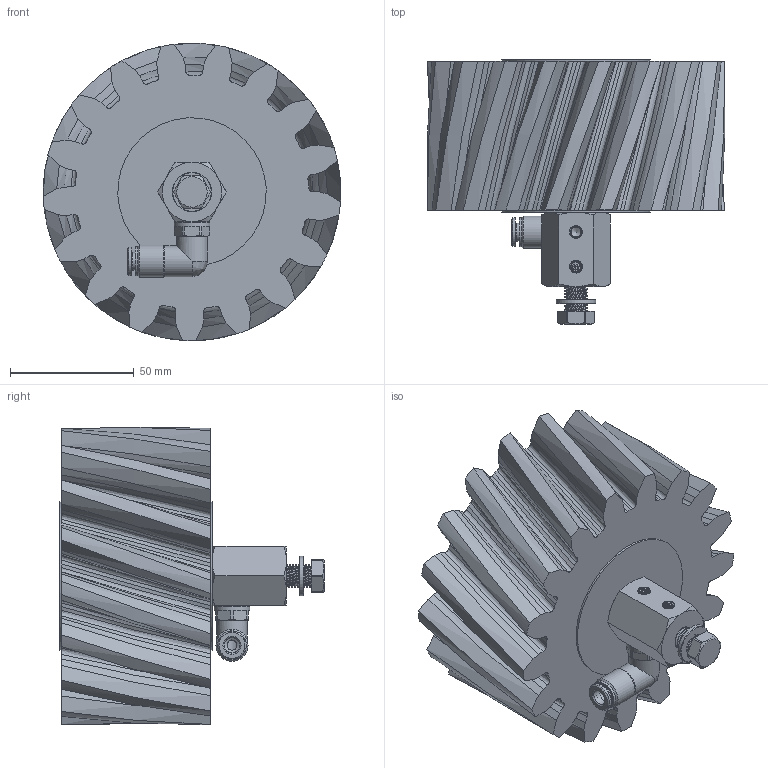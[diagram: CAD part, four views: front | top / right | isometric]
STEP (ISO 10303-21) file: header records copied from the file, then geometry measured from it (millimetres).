
FILE_DESCRIPTION (( 'STEP AP214' ), '1' );
FILE_NAME ('012_13_06_60_17BRZ.STEP', '2026-04-14T08:13:53', ( '' ), ( '' ), 'SwSTEP 2.0', 'SolidWorks 2022', '' );
FILE_SCHEMA (( 'AUTOMOTIVE_DESIGN' ));
Length unit declared in the file: millimetre
Products named in the file (13): Schraube_M8_20; OR 7.2X1.9_1; 012_13_06_60_17BRZ; RIVOLUZIONE_0_2; H202242_HDS022_6_M10X1_08.05.17(1); U_Scheibe_8,4; 12012_06_01_Scheibe-CRS-VA_60.SLDASM; RH202242; DR6-C_HDX_25.07.16_1; 012_13b_02_winklige_Achse_M10_1; 012_06_Senkschraube; Modul_6_S_R; Scheibe_hinten_winklige Achse_groß
Assembly tree (12 placements, depth 3):
  012_13_06_60_17BRZ
    012_13b_02_winklige_Achse_M10_1
    Schraube_M8_20
    U_Scheibe_8,4
    H202242_HDS022_6_M10X1_08.05.17(1)
      OR 7.2X1.9_1
      RH202242
      DR6-C_HDX_25.07.16_1
      RIVOLUZIONE_0_2
    12012_06_01_Scheibe-CRS-VA_60.SLDASM
    Scheibe_hinten_winklige Achse_groß
    012_06_Senkschraube
    Modul_6_S_R
Bounding box: 120.14 x 106.9 x 120.17 mm (x, y, z)
Volume: 576635.7 mm3; surface area: 81582.2 mm2
Topology: 11 solids, 11 shells, 760 faces, 2082 edges, 1380 vertices
Faces by surface type: bspline 354, plane 276, cylinder 71, cone 56, torus 3
Full cylindrical faces by diameter (mm): 4 x3, 6 x1, 6.2 x1, 6.3 x1, 6.5 x1, 7.2 x1, 8.4 x1, 8.5 x1, 9 x10, 9.9 x1, 10 x2, 10.1 x2, 10.3 x1, 11.5 x1, 11.7 x1, 12.5 x2, 13 x1, 14.5 x1, 16 x1, 60 x2
Entity records: 80679 total; most frequent: CARTESIAN_POINT 63375, ORIENTED_EDGE 3866, DIRECTION 2178, EDGE_CURVE 1933, VERTEX_POINT 1314, LINE 994, VECTOR 994, EDGE_LOOP 879
